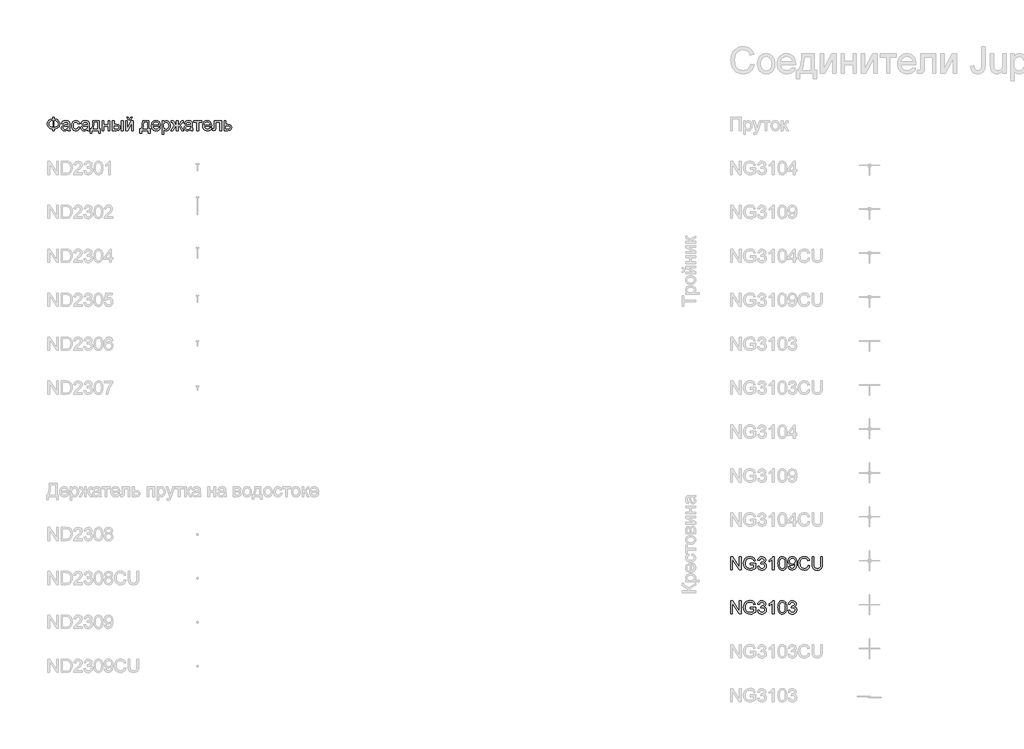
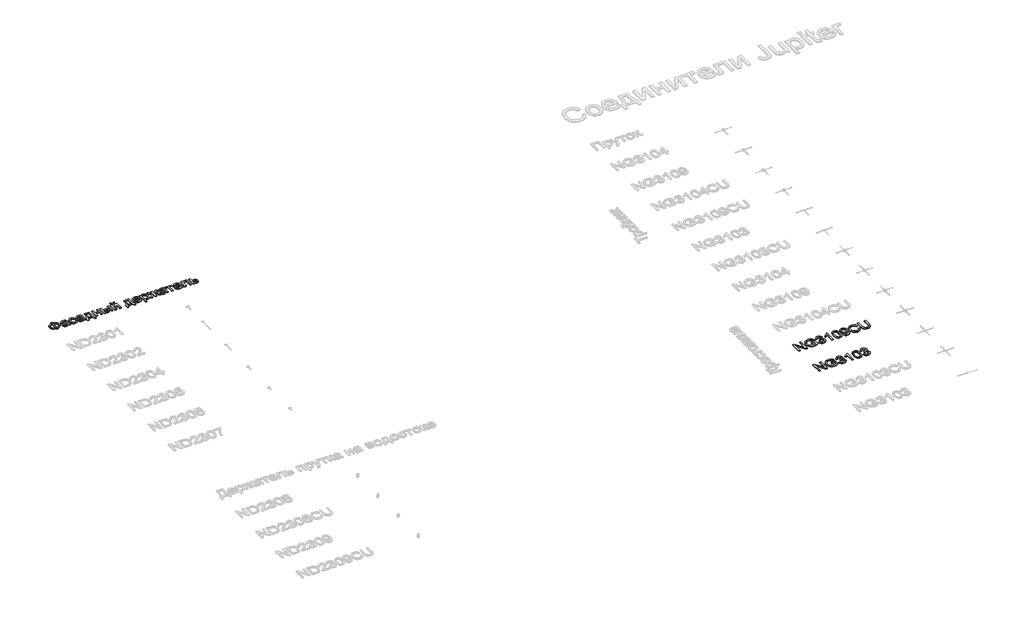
# One storey, part 117 of 124: 3 proxies.
"""IFC4 building model written with IfcOpenShell, lengths in millimetres."""

import ifcopenshell
import ifcopenshell.guid

model = None  # the IFC model being written
_history = None  # IfcOwnerHistory: only IFC2X3 demands one
_inside = {}  # id of a spatial element -> (the spatial element, [elements in it])
_under = {}  # id of a project, library or spatial element -> (it, [spatial elements below it])
_declared = {}  # id of a project -> (the project, [libraries it declares])
_typed = {}  # id of a type object -> (the type object, [elements of that type])
_made_of = {}  # id of a material, layer set ... -> (it, [elements and type objects made of it])


def new_model(schema):
    """Start an empty IFC model of exactly this schema.

    Asked for "IFC4X3", IfcOpenShell would pick the latest addendum, in which some entities
    have other attributes; the version numbers below select the first issue.
    IFC2X3 requires an IfcOwnerHistory on every rooted entity: one is made here for all.
    """
    global model, _history
    if schema == "IFC4X3":
        model = ifcopenshell.file(schema_version=(4, 3, 0, 0))
    else:
        model = ifcopenshell.file(schema=schema)
    _inside.clear()
    _under.clear()
    _declared.clear()
    _typed.clear()
    _made_of.clear()
    _history = None
    if model.schema == "IFC2X3":
        org = make("IfcOrganization", Name="unknown")
        user = make(
            "IfcPersonAndOrganization",
            ThePerson=make("IfcPerson", FamilyName="unknown"),
            TheOrganization=org,
        )
        app = make(
            "IfcApplication",
            ApplicationDeveloper=org,
            Version="unknown",
            ApplicationFullName="unknown",
            ApplicationIdentifier="unknown",
        )
        _history = make(
            "IfcOwnerHistory",
            OwningUser=user,
            OwningApplication=app,
            ChangeAction="ADDED",
            CreationDate=0,
        )
    return model


def make(cls, **values):
    """One entity of the class cls with the attributes given. An attribute that is None is left unset."""
    return model.create_entity(
        cls, **{name: value for name, value in values.items() if value is not None}
    )


def rooted(cls, **values):
    """An entity with a GlobalId (a new one), such as an element, a storey or a relation."""
    return make(cls, GlobalId=ifcopenshell.guid.new(), OwnerHistory=_history, **values)


def si_unit(unit_type, name, prefix=None):
    """IfcSIUnit, for example si_unit("LENGTHUNIT", "METRE", prefix="MILLI")."""
    return make("IfcSIUnit", UnitType=unit_type, Prefix=prefix, Name=name)


def assignment(units):
    """IfcUnitAssignment: the units of a project."""
    return None if units is None else make("IfcUnitAssignment", Units=units)


def point(xyz):
    """IfcCartesianPoint."""
    return None if xyz is None else make("IfcCartesianPoint", Coordinates=xyz)


def direction(xyz):
    """IfcDirection."""
    return None if xyz is None else make("IfcDirection", DirectionRatios=xyz)


def frame(location, z_axis=None, x_axis=None):
    """IfcAxis2Placement3D, a coordinate frame: its origin and axes. An axis left out is left unset."""
    return make(
        "IfcAxis2Placement3D",
        Location=point(location),
        Axis=direction(z_axis),
        RefDirection=direction(x_axis),
    )


def origin():
    """The frame at (0, 0, 0) with its axes left unset."""
    return frame((0.0, 0.0, 0.0))


def origin_with_axes():
    """The frame at (0, 0, 0) with the z axis (0, 0, 1) and the x axis (1, 0, 0) written out."""
    return frame((0.0, 0.0, 0.0), z_axis=(0.0, 0.0, 1.0), x_axis=(1.0, 0.0, 0.0))


def place(relative_to, where):
    """IfcLocalPlacement: puts the frame where relative to a parent placement (None: the world)."""
    return make(
        "IfcLocalPlacement", PlacementRelTo=relative_to, RelativePlacement=where
    )


def context(
    kind, dimensions, precision=None, world=None, true_north=None, identifier=None
):
    """IfcGeometricRepresentationContext, for example the 3D "Model" context."""
    return make(
        "IfcGeometricRepresentationContext",
        ContextIdentifier=identifier,
        ContextType=kind,
        CoordinateSpaceDimension=dimensions,
        Precision=precision,
        WorldCoordinateSystem=world,
        TrueNorth=true_north,
    )


def project(units=None, contexts=None):
    """IfcProject with its units and contexts."""
    return rooted(
        "IfcProject",
        Name="project",
        RepresentationContexts=contexts,
        UnitsInContext=assignment(units),
    )


def spatial(cls, under=None, at=None, **own):
    """A site, building, storey or space (cls), placed at a placement, below another one or the project."""
    s = rooted(cls, ObjectPlacement=at, **own)
    if under is not None:
        _under.setdefault(under.id(), (under, []))[1].append(s)
    return s


def polyline(points):
    """IfcPolyline through the points."""
    return make("IfcPolyline", Points=[point(p) for p in points])


def outline(outer, holes=None, kind="AREA"):
    """IfcArbitraryClosedProfileDef: a profile drawn as a closed curve; with holes, ...WithVoids."""
    if holes is None:
        return make("IfcArbitraryClosedProfileDef", ProfileType=kind, OuterCurve=outer)
    return make(
        "IfcArbitraryProfileDefWithVoids",
        ProfileType=kind,
        OuterCurve=outer,
        InnerCurves=holes,
    )


def extrude(swept, where, along, depth):
    """IfcExtrudedAreaSolid: the profile swept, set in the frame where, extruded along a direction by depth."""
    return make(
        "IfcExtrudedAreaSolid",
        SweptArea=swept,
        Position=where,
        ExtrudedDirection=direction(along),
        Depth=depth,
    )


def shape(context_of_items, identifier, shape_type, items):
    """IfcShapeRepresentation: the items that make up one representation, for example the "Body"."""
    return make(
        "IfcShapeRepresentation",
        ContextOfItems=context_of_items,
        RepresentationIdentifier=identifier,
        RepresentationType=shape_type,
        Items=items,
    )


def made_of(thing, what):
    """Note that an element or type object is made of a material, layer set ...; save() writes the relation."""
    if what is not None:
        _made_of.setdefault(what.id(), (what, []))[1].append(thing)
    return thing


def element(
    cls,
    number,
    at=None,
    inside=None,
    cuts=None,
    type_object=None,
    material=None,
    context=None,
    identifier="Body",
    shape_type=None,
    held_by="IfcProductDefinitionShape",
    body=None,
    shapes=None,
    **own,
):
    """One element of the class cls, such as IfcWall. Its Tag is "e" and its number.

    at: its placement. inside: the storey or other place that contains it. cuts: it is an
    opening in that element (IfcRelVoidsElement). A single representation is given by context,
    identifier, shape_type and body (its items); several are given by shapes. held_by: the class
    of the entity that holds the representations. save() writes the other relations.
    """
    e = rooted(cls, Tag="e%d" % number, ObjectPlacement=at, **own)
    if body is not None:
        shapes = [shape(context, identifier, shape_type, body)]
    if shapes is not None:
        e.Representation = make(held_by, Representations=shapes)
    if inside is not None:
        _inside.setdefault(inside.id(), (inside, []))[1].append(e)
    if cuts is not None:
        rooted(
            "IfcRelVoidsElement", RelatingBuildingElement=cuts, RelatedOpeningElement=e
        )
    if type_object is not None:
        _typed.setdefault(type_object.id(), (type_object, []))[1].append(e)
    return made_of(e, material)


def aggregate(whole, parts):
    """IfcRelAggregates: a whole, such as a stair, and the parts it consists of."""
    return rooted("IfcRelAggregates", RelatingObject=whole, RelatedObjects=parts)


def save(model, path):
    """Write the relations noted so far, then the file.

    IfcRelAggregates (storeys below a building ...), IfcRelContainedInSpatialStructure (elements
    in a storey), IfcRelDefinesByType, IfcRelAssociatesMaterial and IfcRelDeclares: one each for
    every whole, place, type object, material and project.
    """
    for whole, parts in _under.values():
        aggregate(whole, parts)
    for where, things in _inside.values():
        rooted(
            "IfcRelContainedInSpatialStructure",
            RelatedElements=things,
            RelatingStructure=where,
        )
    for kind, things in _typed.values():
        rooted("IfcRelDefinesByType", RelatedObjects=things, RelatingType=kind)
    for what, things in _made_of.values():
        rooted("IfcRelAssociatesMaterial", RelatedObjects=things, RelatingMaterial=what)
    for by, libraries in _declared.values():
        rooted("IfcRelDeclares", RelatingContext=by, RelatedDefinitions=libraries)
    model.write(path)


model = new_model("IFC4")

# Units and contexts
model_context = context("Model", 3, world=origin())
ifc_project = project(units=[si_unit("LENGTHUNIT", "METRE", prefix="MILLI")], contexts=[model_context])

# Site, building, storey
site = spatial("IfcSite", under=ifc_project)
building = spatial("IfcBuilding", under=site)
storey = spatial("IfcBuildingStorey", under=building, Name="Этаж 01", Elevation=0.0)

# Proxies
placement = place(None, origin())
element("IfcBuildingElementProxy", 1, Name="300", ObjectType="300", at=placement, inside=storey, context=model_context, shape_type="SweptSolid", body=[
    extrude(outline(polyline([(49699.8220677, -14519.5141033), (49699.8220677, -14218.1451728), (49740.1419344, -14218.1451728), (49897.5954283, -14456.9005877), (49897.5954283, -14218.1451728), (49935.2665446, -14218.1451728), (49935.2665446, -14519.5141033), (49894.9466779, -14519.5141033), (49737.493184, -14280.685112), (49737.493184, -14519.5141033), (49699.8220677, -14519.5141033)])), origin_with_axes(), (0.0, 0.0, 1.0), 20.0),
    extrude(outline(polyline([(50142.4576843, -14401.7918648), (50142.4576843, -14364.1207485), (50264.8888123, -14364.1207485), (50264.8888123, -14476.7662154), (50235.1363559, -14497.4595776), (50204.4458005, -14512.3036162), (50172.8907223, -14521.2431486), (50140.5446979, -14524.2229928), (50098.2842537, -14519.4865121), (50060.0889056, -14505.27707), (50028.3590835, -14482.0913073), (50005.4952175, -14450.4258646), (49991.6720515, -14412.4420486), (49987.0643295, -14370.301166), (49991.6536574, -14327.8567808), (50005.4216411, -14288.3738457), (50027.7980634, -14255.2552691), (50058.2127074, -14231.9039594), (50095.2584243, -14218.0532023), (50137.5280656, -14213.4362833), (50168.5589118, -14216.1126248), (50196.4627612, -14224.1416493), (50219.9612236, -14236.9439428), (50237.7759092, -14253.9400909), (50250.9552817, -14275.9486313), (50260.5478047, -14303.7881013), (50225.8197444, -14313.5737624), (50218.0666313, -14293.7173317), (50208.6396552, -14278.7353374), (50196.1684556, -14267.4413602), (50179.282672, -14258.6489805), (50159.1503298, -14252.9927948), (50136.9394544, -14251.1073996), (50110.9393944, -14253.1399476), (50088.7101248, -14259.2375917), (50070.3344191, -14268.6369766), (50055.8950508, -14280.5747474), (50036.5076697, -14309.6006368), (50027.6785018, -14338.037915), (50024.7354458, -14368.7560616), (50028.27631, -14404.780906), (50038.8989026, -14434.4229978), (50056.2813269, -14457.4708048), (50080.1016861, -14473.7127949), (50107.9779443, -14483.3421061), (50137.5280656, -14486.5518765), (50163.6200961, -14484.1330524), (50189.0683331, -14476.87658), (50211.1688439, -14466.8793868), (50227.217696, -14456.2384001), (50227.217696, -14401.7918648), (50142.4576843, -14401.7918648)])), origin_with_axes(), (0.0, 0.0, 1.0), 20.0),
    extrude(outline(polyline([(50311.9777077, -14439.4629811), (50349.648824, -14434.7540916), (50358.0825187, -14458.427298), (50370.4341567, -14474.4117707), (50387.3107432, -14483.51685), (50409.3192836, -14486.5518765), (50435.1445997, -14482.3764158), (50455.0838038, -14469.8500339), (50467.8309149, -14451.1616286), (50472.079952, -14428.5000977), (50467.8677031, -14406.988198), (50455.2309566, -14389.5413944), (50436.1010928, -14377.9807027), (50412.4094924, -14374.1271388), (50385.9955651, -14378.2474171), (50390.1894198, -14340.5763008), (50396.2226846, -14341.0177592), (50418.792245, -14338.3138265), (50438.9705724, -14330.2020285), (50453.2076056, -14316.4800301), (50457.9532834, -14296.9454962), (50454.5135867, -14280.6759149), (50444.1944967, -14267.4781484), (50428.4491473, -14258.7317539), (50408.7306724, -14255.8162891), (50388.9754093, -14258.7593451), (50372.8253897, -14267.588513), (50361.0347717, -14282.3037928), (50354.3577135, -14302.9051845), (50316.6865972, -14298.196295), (50327.7782394, -14264.3695455), (50347.5151084, -14239.1144465), (50374.5176468, -14223.3874912), (50407.4062972, -14218.1451728), (50431.0887007, -14220.7295438), (50452.8397236, -14228.4826569), (50471.1786411, -14240.7147332), (50484.624728, -14256.7359941), (50492.8744817, -14275.1944732), (50495.6243997, -14294.7382042), (50493.0124375, -14312.948363), (50485.176551, -14329.4662646), (50472.2271048, -14343.5377509), (50454.2744634, -14354.4086638), (50477.8556993, -14363.9368075), (50495.3300941, -14380.1604035), (50506.1458247, -14402.196535), (50509.7510683, -14429.1622852), (50507.9484465, -14448.2737549), (50502.5405812, -14465.8769084), (50493.5274723, -14481.9717457), (50480.9091199, -14496.5582668), (50465.536251, -14508.6615844), (50448.2595928, -14517.3068113), (50429.0791453, -14522.4939474), (50407.9949084, -14524.2229928), (50388.9386211, -14522.7468663), (50371.5745909, -14518.3184868), (50355.9028179, -14510.9378542), (50341.9233021, -14500.6049687), (50330.201662, -14487.9268354), (50321.3035162, -14473.5104598), (50315.2288648, -14457.3558417), (50311.9777077, -14439.4629811)])), origin_with_axes(), (0.0, 0.0, 1.0), 20.0),
    extrude(outline(polyline([(50683.9799812, -14519.5141033), (50646.3088649, -14519.5141033), (50646.3088649, -14284.6582375), (50610.6243114, -14310.0788834), (50570.9666323, -14329.0983826), (50570.9666323, -14293.4874054), (50600.5535417, -14277.3925681), (50626.1857197, -14258.2443103), (50646.3916383, -14237.8820419), (50659.6997695, -14218.1451728), (50683.9799812, -14218.1451728), (50683.9799812, -14519.5141033)])), origin_with_axes(), (0.0, 0.0, 1.0), 20.0),
    extrude(outline(polyline([(50773.4488824, -14371.2576592), (50776.2171944, -14323.0191326), (50784.5221305, -14284.5478729), (50798.2809171, -14255.2552691), (50817.4107808, -14234.5527098), (50842.0496775, -14222.2470571), (50872.3355627, -14218.1451728), (50895.5489166, -14220.573194), (50916.3342493, -14227.8572575), (50933.7166736, -14239.7122548), (50946.7213021, -14255.8530773), (50956.5437514, -14276.1417694), (50964.3796379, -14300.4403751), (50969.5115917, -14331.2964775), (50971.222243, -14371.2576592), (50968.4815222, -14419.2202743), (50960.2593596, -14457.5995635), (50946.5833464, -14486.9197585), (50927.4810738, -14507.7050912), (50902.7869949, -14520.0935174), (50872.3355627, -14524.2229928), (50851.5870182, -14522.4295681), (50833.1929184, -14517.0492939), (50817.1532634, -14508.0821703), (50803.4680532, -14495.5281972), (50790.334666, -14472.8344766), (50780.9536751, -14444.5581467), (50775.3250806, -14410.6992076), (50773.4488824, -14371.2576592)]), holes=[polyline([(50811.1199987, -14371.1840828), (50815.5345827, -14430.4406752), (50821.0528126, -14450.7086739), (50828.7783345, -14464.7364742), (50848.4968094, -14481.0980259), (50872.3355627, -14486.5518765), (50896.174316, -14481.0796318), (50915.892791, -14464.6628978), (50923.6183128, -14450.6121048), (50929.1365428, -14430.3487047), (50933.5511267, -14371.1840828), (50929.2836956, -14313.2610627), (50923.9494066, -14293.0597426), (50916.4814021, -14278.6985492), (50896.7997154, -14261.5368541), (50871.8941043, -14255.8162891), (50848.3128684, -14260.8562725), (50829.3669457, -14275.9762225), (50821.3839064, -14291.6112072), (50815.6817355, -14312.6908456), (50811.1199987, -14371.1840828)])]), origin_with_axes(), (0.0, 0.0, 1.0), 20.0),
    extrude(outline(polyline([(51008.8933593, -14444.1718706), (51046.5644756, -14439.4629811), (51053.0024106, -14460.8461221), (51063.4870474, -14475.405052), (51077.7608688, -14483.7651704), (51095.5663574, -14486.5518765), (51111.541633, -14484.7584518), (51126.0637748, -14479.3781776), (51138.1303042, -14470.9996651), (51146.7387429, -14460.2115256), (51159.0627898, -14427.4700281), (51164.5074433, -14383.765647), (51164.2867141, -14376.4080071), (51151.2361003, -14392.3372975), (51134.1571787, -14404.95565), (51114.2823539, -14413.1778126), (51092.8440306, -14415.9185334), (51074.9488708, -14414.2446703), (51058.4930493, -14409.2230811), (51043.4765661, -14400.8537657), (51029.8994213, -14389.1367242), (51018.64913, -14374.6835603), (51010.6132077, -14358.1058779), (51005.7916543, -14339.4036769), (51004.1844698, -14318.5769575), (51005.8698292, -14297.0558608), (51010.9259074, -14277.742056), (51019.3527043, -14260.6355433), (51031.15022, -14245.7363225), (51045.4861215, -14233.6651945), (51061.5280758, -14225.0429602), (51079.2760828, -14219.8696197), (51098.7301426, -14218.1451728), (51126.8271299, -14222.0815102), (51152.4041256, -14233.8905222), (51173.7964637, -14252.9835978), (51189.339478, -14278.7721256), (51198.8032423, -14314.4198909), (51201.9578304, -14363.0906789), (51198.8124393, -14414.6953258), (51189.3762662, -14454.5829311), (51173.7320843, -14484.5561167), (51151.9626673, -14506.4175042), (51125.0061141, -14519.7716207), (51093.8005238, -14524.2229928), (51061.5924551, -14518.9714773), (51035.8958978, -14503.2169309), (51017.9248623, -14477.9526349), (51008.8933593, -14444.1718706)]), holes=[polyline([(51164.2867141, -14317.6940407), (51160.221618, -14292.1630302), (51148.0263299, -14272.5181317), (51129.0988013, -14259.9917498), (51104.8369837, -14255.8162891), (51079.6738552, -14260.3136465), (51059.5139219, -14273.8057187), (51046.27017, -14294.4530957), (51041.8555861, -14320.4163675), (51046.0310467, -14343.6941007), (51058.5574287, -14362.1709739), (51078.2207213, -14374.2283063), (51103.8069141, -14378.2474171), (51127.8755936, -14374.2283063), (51147.2537777, -14362.1709739), (51160.02848, -14343.013519), (51164.2867141, -14317.6940407)])]), origin_with_axes(), (0.0, 0.0, 1.0), 20.0),
    extrude(outline(polyline([(51460.946755, -14412.3868663), (51498.6178713, -14422.0989509), (51491.1636624, -14445.5261362), (51481.235447, -14465.99647), (51468.8332253, -14483.5099522), (51453.9569971, -14498.0665829), (51436.9424548, -14509.5100123), (51418.1252908, -14517.6838903), (51397.5055049, -14522.5882172), (51375.0830973, -14524.2229928), (51331.3879134, -14519.27498), (51296.6874442, -14504.4309415), (51270.0895759, -14480.2059121), (51250.7021948, -14447.1149266), (51238.8655916, -14408.2114056), (51234.9200572, -14366.5487697), (51239.3806264, -14322.6052653), (51252.7623339, -14284.6582375), (51274.3662041, -14253.9124998), (51303.4932611, -14231.5728656), (51338.0373804, -14217.9704289), (51375.8924377, -14213.4362833), (51417.1963887, -14219.3040011), (51435.1651249, -14226.6386484), (51451.3450349, -14236.9071546), (51465.4694043, -14249.8382067), (51477.2715185, -14265.1604918), (51493.9089818, -14302.9787609), (51456.2378655, -14311.9550816), (51443.1780546, -14284.4834936), (51425.3357779, -14265.6387384), (51402.490306, -14254.7402343), (51374.4209097, -14251.1073996), (51342.0656883, -14255.1357074), (51315.4862141, -14267.220631), (51295.3170837, -14286.0929773), (51282.1928935, -14310.4835536), (51274.9916035, -14338.0563091), (51272.5911735, -14366.4751933), (51275.4330619, -14401.27683), (51283.9587271, -14431.3695772), (51298.4900659, -14455.6038036), (51319.3489751, -14472.8298781), (51344.3557537, -14483.1213769), (51371.330701, -14486.5518765), (51402.7754145, -14481.8797752), (51428.9778096, -14467.8634711), (51448.7606639, -14444.6501172), (51460.946755, -14412.3868663)])), origin_with_axes(), (0.0, 0.0, 1.0), 20.0),
    extrude(outline(polyline([(51748.1890168, -14218.1451728), (51785.8601331, -14218.1451728), (51785.8601331, -14392.0062037), (51783.3033533, -14432.7215435), (51775.6330137, -14464.0742866), (51761.30401, -14488.2625278), (51738.7712378, -14507.484362), (51707.9795148, -14520.0383351), (51668.8736587, -14524.2229928), (51630.6231282, -14520.580961), (51600.0429374, -14509.6548658), (51577.1238891, -14491.8217861), (51561.8567863, -14467.4588009), (51553.2759387, -14434.7816827), (51550.4156562, -14392.0062037), (51550.4156562, -14218.1451728), (51588.0867725, -14218.1451728), (51588.0867725, -14390.6818285), (51589.9445766, -14424.5361692), (51595.5179888, -14448.108208), (51605.6163496, -14464.4329715), (51621.0489993, -14476.5454862), (51641.1721444, -14484.0502789), (51665.3419915, -14486.5518765), (51703.6569013, -14481.6038637), (51717.9997006, -14475.4188476), (51729.1327295, -14466.7598252), (51737.4698552, -14454.5829311), (51743.424945, -14437.8443003), (51748.1890168, -14390.6818285), (51748.1890168, -14218.1451728)])), origin_with_axes(), (0.0, 0.0, 1.0), 20.0),
])
element("IfcBuildingElementProxy", 2, Name="300", ObjectType="300", at=placement, inside=storey, context=model_context, shape_type="SweptSolid", body=[
    extrude(outline(polyline([(49699.8220677, -15519.5141033), (49699.8220677, -15218.1451728), (49740.1419344, -15218.1451728), (49897.5954283, -15456.9005877), (49897.5954283, -15218.1451728), (49935.2665446, -15218.1451728), (49935.2665446, -15519.5141033), (49894.9466779, -15519.5141033), (49737.493184, -15280.685112), (49737.493184, -15519.5141033), (49699.8220677, -15519.5141033)])), origin_with_axes(), (0.0, 0.0, 1.0), 20.0),
    extrude(outline(polyline([(50142.4576843, -15401.7918648), (50142.4576843, -15364.1207485), (50264.8888123, -15364.1207485), (50264.8888123, -15476.7662154), (50235.1363559, -15497.4595776), (50204.4458005, -15512.3036162), (50172.8907223, -15521.2431486), (50140.5446979, -15524.2229928), (50098.2842537, -15519.4865121), (50060.0889056, -15505.27707), (50028.3590835, -15482.0913073), (50005.4952175, -15450.4258646), (49991.6720515, -15412.4420486), (49987.0643295, -15370.301166), (49991.6536574, -15327.8567808), (50005.4216411, -15288.3738457), (50027.7980634, -15255.2552691), (50058.2127074, -15231.9039594), (50095.2584243, -15218.0532023), (50137.5280656, -15213.4362833), (50168.5589118, -15216.1126248), (50196.4627612, -15224.1416493), (50219.9612236, -15236.9439428), (50237.7759092, -15253.9400909), (50250.9552817, -15275.9486313), (50260.5478047, -15303.7881013), (50225.8197444, -15313.5737624), (50218.0666313, -15293.7173317), (50208.6396552, -15278.7353374), (50196.1684556, -15267.4413602), (50179.282672, -15258.6489805), (50159.1503298, -15252.9927948), (50136.9394544, -15251.1073996), (50110.9393944, -15253.1399476), (50088.7101248, -15259.2375917), (50070.3344191, -15268.6369766), (50055.8950508, -15280.5747474), (50036.5076697, -15309.6006368), (50027.6785018, -15338.037915), (50024.7354458, -15368.7560616), (50028.27631, -15404.780906), (50038.8989026, -15434.4229978), (50056.2813269, -15457.4708048), (50080.1016861, -15473.7127949), (50107.9779443, -15483.3421061), (50137.5280656, -15486.5518765), (50163.6200961, -15484.1330524), (50189.0683331, -15476.87658), (50211.1688439, -15466.8793868), (50227.217696, -15456.2384001), (50227.217696, -15401.7918648), (50142.4576843, -15401.7918648)])), origin_with_axes(), (0.0, 0.0, 1.0), 20.0),
    extrude(outline(polyline([(50311.9777077, -15439.4629811), (50349.648824, -15434.7540916), (50358.0825187, -15458.427298), (50370.4341567, -15474.4117707), (50387.3107432, -15483.51685), (50409.3192836, -15486.5518765), (50435.1445997, -15482.3764158), (50455.0838038, -15469.8500339), (50467.8309149, -15451.1616286), (50472.079952, -15428.5000977), (50467.8677031, -15406.988198), (50455.2309566, -15389.5413944), (50436.1010928, -15377.9807027), (50412.4094924, -15374.1271388), (50385.9955651, -15378.2474171), (50390.1894198, -15340.5763008), (50396.2226846, -15341.0177592), (50418.792245, -15338.3138265), (50438.9705724, -15330.2020285), (50453.2076056, -15316.4800301), (50457.9532834, -15296.9454962), (50454.5135867, -15280.6759149), (50444.1944967, -15267.4781484), (50428.4491473, -15258.7317539), (50408.7306724, -15255.8162891), (50388.9754093, -15258.7593451), (50372.8253897, -15267.588513), (50361.0347717, -15282.3037928), (50354.3577135, -15302.9051845), (50316.6865972, -15298.196295), (50327.7782394, -15264.3695455), (50347.5151084, -15239.1144465), (50374.5176468, -15223.3874912), (50407.4062972, -15218.1451728), (50431.0887007, -15220.7295438), (50452.8397236, -15228.4826569), (50471.1786411, -15240.7147332), (50484.624728, -15256.7359941), (50492.8744817, -15275.1944732), (50495.6243997, -15294.7382042), (50493.0124375, -15312.948363), (50485.176551, -15329.4662646), (50472.2271048, -15343.5377509), (50454.2744634, -15354.4086638), (50477.8556993, -15363.9368075), (50495.3300941, -15380.1604035), (50506.1458247, -15402.196535), (50509.7510683, -15429.1622852), (50507.9484465, -15448.2737549), (50502.5405812, -15465.8769084), (50493.5274723, -15481.9717457), (50480.9091199, -15496.5582668), (50465.536251, -15508.6615844), (50448.2595928, -15517.3068113), (50429.0791453, -15522.4939474), (50407.9949084, -15524.2229928), (50388.9386211, -15522.7468663), (50371.5745909, -15518.3184868), (50355.9028179, -15510.9378542), (50341.9233021, -15500.6049687), (50330.201662, -15487.9268354), (50321.3035162, -15473.5104598), (50315.2288648, -15457.3558417), (50311.9777077, -15439.4629811)])), origin_with_axes(), (0.0, 0.0, 1.0), 20.0),
    extrude(outline(polyline([(50683.9799812, -15519.5141033), (50646.3088649, -15519.5141033), (50646.3088649, -15284.6582375), (50610.6243114, -15310.0788834), (50570.9666323, -15329.0983826), (50570.9666323, -15293.4874054), (50600.5535417, -15277.3925681), (50626.1857197, -15258.2443103), (50646.3916383, -15237.8820419), (50659.6997695, -15218.1451728), (50683.9799812, -15218.1451728), (50683.9799812, -15519.5141033)])), origin_with_axes(), (0.0, 0.0, 1.0), 20.0),
    extrude(outline(polyline([(50773.4488824, -15371.2576592), (50776.2171944, -15323.0191326), (50784.5221305, -15284.5478729), (50798.2809171, -15255.2552691), (50817.4107808, -15234.5527098), (50842.0496775, -15222.2470571), (50872.3355627, -15218.1451728), (50895.5489166, -15220.573194), (50916.3342493, -15227.8572575), (50933.7166736, -15239.7122548), (50946.7213021, -15255.8530773), (50956.5437514, -15276.1417694), (50964.3796379, -15300.4403751), (50969.5115917, -15331.2964775), (50971.222243, -15371.2576592), (50968.4815222, -15419.2202743), (50960.2593596, -15457.5995635), (50946.5833464, -15486.9197585), (50927.4810738, -15507.7050912), (50902.7869949, -15520.0935174), (50872.3355627, -15524.2229928), (50851.5870182, -15522.4295681), (50833.1929184, -15517.0492939), (50817.1532634, -15508.0821703), (50803.4680532, -15495.5281972), (50790.334666, -15472.8344766), (50780.9536751, -15444.5581467), (50775.3250806, -15410.6992076), (50773.4488824, -15371.2576592)]), holes=[polyline([(50811.1199987, -15371.1840828), (50815.5345827, -15430.4406752), (50821.0528126, -15450.7086739), (50828.7783345, -15464.7364742), (50848.4968094, -15481.0980259), (50872.3355627, -15486.5518765), (50896.174316, -15481.0796318), (50915.892791, -15464.6628978), (50923.6183128, -15450.6121048), (50929.1365428, -15430.3487047), (50933.5511267, -15371.1840828), (50929.2836956, -15313.2610627), (50923.9494066, -15293.0597426), (50916.4814021, -15278.6985492), (50896.7997154, -15261.5368541), (50871.8941043, -15255.8162891), (50848.3128684, -15260.8562725), (50829.3669457, -15275.9762225), (50821.3839064, -15291.6112072), (50815.6817355, -15312.6908456), (50811.1199987, -15371.1840828)])]), origin_with_axes(), (0.0, 0.0, 1.0), 20.0),
    extrude(outline(polyline([(51004.1844698, -15439.4629811), (51041.8555861, -15434.7540916), (51050.2892808, -15458.427298), (51062.6409188, -15474.4117707), (51079.5175054, -15483.51685), (51101.5260457, -15486.5518765), (51127.3513618, -15482.3764158), (51147.2905659, -15469.8500339), (51160.037677, -15451.1616286), (51164.2867141, -15428.5000977), (51160.0744652, -15406.988198), (51147.4377187, -15389.5413944), (51128.307855, -15377.9807027), (51104.6162545, -15374.1271388), (51078.2023272, -15378.2474171), (51082.396182, -15340.5763008), (51088.4294467, -15341.0177592), (51110.9990071, -15338.3138265), (51131.1773345, -15330.2020285), (51145.4143677, -15316.4800301), (51150.1600455, -15296.9454962), (51146.7203488, -15280.6759149), (51136.4012589, -15267.4781484), (51120.6559095, -15258.7317539), (51100.9374345, -15255.8162891), (51081.1821714, -15258.7593451), (51065.0321518, -15267.588513), (51053.2415338, -15282.3037928), (51046.5644756, -15302.9051845), (51008.8933593, -15298.196295), (51019.9850015, -15264.3695455), (51039.7218705, -15239.1144465), (51066.724409, -15223.3874912), (51099.6130593, -15218.1451728), (51123.2954628, -15220.7295438), (51145.0464857, -15228.4826569), (51163.3854032, -15240.7147332), (51176.8314901, -15256.7359941), (51185.0812439, -15275.1944732), (51187.8311618, -15294.7382042), (51185.2191996, -15312.948363), (51177.3833131, -15329.4662646), (51164.4338669, -15343.5377509), (51146.4812255, -15354.4086638), (51170.0624614, -15363.9368075), (51187.5368562, -15380.1604035), (51198.3525868, -15402.196535), (51201.9578304, -15429.1622852), (51200.1552086, -15448.2737549), (51194.7473433, -15465.8769084), (51185.7342344, -15481.9717457), (51173.115882, -15496.5582668), (51157.7430131, -15508.6615844), (51140.4663549, -15517.3068113), (51121.2859074, -15522.4939474), (51100.2016705, -15524.2229928), (51081.1453832, -15522.7468663), (51063.781353, -15518.3184868), (51048.10958, -15510.9378542), (51034.1300642, -15500.6049687), (51022.4084241, -15487.9268354), (51013.5102784, -15473.5104598), (51007.4356269, -15457.3558417), (51004.1844698, -15439.4629811)])), origin_with_axes(), (0.0, 0.0, 1.0), 20.0),
])
element("IfcBuildingElementProxy", 3, Name="300", ObjectType="300", at=placement, inside=storey, context=model_context, shape_type="SweptSolid", body=[
    extrude(outline(polyline([(34269.7942312, -4255.8162891), (34269.7942312, -4218.1451728), (34307.4653475, -4218.1451728), (34307.4653475, -4255.8162891), (34334.336828, -4259.1364241), (34358.2238658, -4266.0066204), (34379.1264609, -4276.4268779), (34397.0446133, -4290.3971967), (34411.417303, -4307.1036378), (34421.68351, -4325.7322623), (34427.8432341, -4346.2830703), (34429.8964755, -4368.7560616), (34427.9076135, -4390.7783976), (34421.9410274, -4411.0808852), (34411.9967172, -4429.6635245), (34398.0746829, -4446.5263154), (34380.4784272, -4460.7357575), (34359.5114528, -4471.3583501), (34335.1737595, -4478.3940932), (34307.4653475, -4481.842987), (34307.4653475, -4519.5141033), (34269.7942312, -4519.5141033), (34269.7942312, -4481.842987), (34244.6265042, -4479.0355875), (34221.6568721, -4472.6735282), (34200.885335, -4462.7568092), (34182.3118928, -4449.2854304), (34167.0217973, -4432.8158133), (34156.1003006, -4413.9043795), (34149.5474026, -4392.5511289), (34147.3631032, -4368.7560616), (34149.5405048, -4344.852929), (34156.0727095, -4323.469788), (34166.9597172, -4304.6066387), (34182.2015282, -4288.2634811), (34200.7404815, -4274.9231602), (34221.5189164, -4265.0685213), (34244.536833, -4258.6995643), (34269.7942312, -4255.8162891)]), holes=[polyline([(34307.4653475, -4293.4874054), (34307.4653475, -4444.1718706), (34342.7084427, -4437.9454679), (34369.5638283, -4422.7979267), (34379.4782481, -4412.0718673), (34386.5599765, -4399.5017994), (34392.2253592, -4368.829638), (34386.661144, -4338.5713439), (34379.7058751, -4326.0771517), (34369.9684985, -4315.3395959), (34343.2142804, -4300.0173108), (34307.4653475, -4293.4874054)]), polyline([(34269.7942312, -4293.4874054), (34235.5168263, -4299.5206701), (34208.4683026, -4314.5302555), (34198.2158913, -4325.2356216), (34190.8927403, -4337.853974), (34186.4988497, -4352.3853129), (34185.0342195, -4368.829638), (34186.4804556, -4385.1245112), (34190.8191639, -4399.5753758), (34198.0503444, -4412.1822319), (34208.173997, -4422.9450795), (34235.1489443, -4438.0926207), (34269.7942312, -4444.1718706), (34269.7942312, -4293.4874054)])]), origin_with_axes(), (0.0, 0.0, 1.0), 20.0),
    extrude(outline(polyline([(34618.252057, -4491.260766), (34600.2534304, -4506.6934157), (34581.7213749, -4516.7917765), (34562.2328262, -4522.3651887), (34541.36472, -4524.2229928), (34509.8832183, -4519.7532266), (34486.6606674, -4506.3439278), (34472.3408607, -4485.9816594), (34467.5675918, -4460.652984), (34469.3702136, -4445.0363933), (34474.7780789, -4430.8545424), (34483.1198032, -4418.7144366), (34493.7240017, -4409.2230811), (34520.1011407, -4396.8622461), (34552.6954855, -4391.1968633), (34591.2127304, -4385.237175), (34618.0313278, -4378.2474171), (34618.252057, -4369.8597076), (34615.658489, -4353.0475004), (34607.8777848, -4342.0478288), (34590.4769664, -4333.8808485), (34566.2335429, -4331.1585217), (34543.7927412, -4332.9703406), (34528.1209682, -4338.405797), (34517.4339963, -4348.4581726), (34509.9475977, -4364.1207485), (34472.2764814, -4359.411859), (34478.8155838, -4338.8104672), (34488.5736537, -4322.6236594), (34502.4611991, -4310.2444303), (34521.3887277, -4301.0657745), (34544.5377023, -4295.3819977), (34571.0895853, -4293.4874054), (34596.5562164, -4295.1612685), (34616.7437409, -4300.1828577), (34631.9648584, -4307.7336357), (34642.5322687, -4316.9950649), (34649.5404207, -4328.445392), (34654.0837634, -4342.5628636), (34655.9231733, -4375.5250903), (34655.9231733, -4422.3932565), (34657.8361597, -4487.8394635), (34665.3409524, -4519.5141033), (34627.6698361, -4519.5141033), (34618.252057, -4491.260766)]), holes=[polyline([(34618.252057, -4415.9185334), (34557.4779514, -4427.4700281), (34525.0675477, -4433.5768692), (34510.3890561, -4443.5096831), (34505.2387081, -4458.0042337), (34508.0438083, -4469.2062404), (34516.459109, -4478.3848962), (34530.300669, -4484.5101314), (34549.3845475, -4486.5518765), (34569.6180573, -4484.2985993), (34587.4971222, -4477.5387676), (34601.9916729, -4467.5783626), (34612.0716395, -4455.7233653), (34616.5414058, -4443.5096831), (34618.0313278, -4426.5871113), (34618.252057, -4415.9185334)])]), origin_with_axes(), (0.0, 0.0, 1.0), 20.0),
    extrude(outline(polyline([(34848.9876444, -4439.4629811), (34886.6587607, -4444.1718706), (34876.1557298, -4477.6767234), (34856.4188607, -4502.9962017), (34829.3059577, -4518.916295), (34796.6748247, -4524.2229928), (34775.5469019, -4522.3720865), (34756.6032784, -4516.8193676), (34739.8439542, -4507.5648362), (34725.2689294, -4494.6084922), (34713.4714137, -4478.1940574), (34705.0446168, -4458.5652537), (34699.9885386, -4435.7220811), (34698.3031792, -4409.6645395), (34701.1818558, -4376.1412927), (34709.8178856, -4347.0878121), (34724.3492245, -4323.6261379), (34744.913828, -4306.87831), (34769.5159364, -4296.8351316), (34796.1597899, -4293.4874054), (34827.9907795, -4298.0859304), (34853.4390166, -4311.8815052), (34871.6951606, -4334.1383659), (34881.9498712, -4364.1207485), (34844.2787549, -4368.829638), (34837.4453468, -4352.3945099), (34826.8043601, -4340.613089), (34812.9444059, -4333.5221635), (34796.4540955, -4331.1585217), (34772.1095045, -4335.812229), (34752.7865027, -4349.7733507), (34740.1773473, -4373.796045), (34735.9742955, -4408.6344699), (34740.0853768, -4443.9419444), (34752.4186207, -4468.0474121), (34771.3921346, -4481.9257604), (34795.4240259, -4486.5518765), (34814.9309687, -4483.6640028), (34830.9246385, -4475.0003818), (34842.5589066, -4460.3402843), (34848.9876444, -4439.4629811)])), origin_with_axes(), (0.0, 0.0, 1.0), 20.0),
    extrude(outline(polyline([(35060.8876736, -4491.260766), (35042.889047, -4506.6934157), (35024.3569915, -4516.7917765), (35004.8684428, -4522.3651887), (34984.0003366, -4524.2229928), (34952.5188349, -4519.7532266), (34929.296284, -4506.3439278), (34914.9764773, -4485.9816594), (34910.2032084, -4460.652984), (34912.0058302, -4445.0363933), (34917.4136955, -4430.8545424), (34925.7554198, -4418.7144366), (34936.3596183, -4409.2230811), (34962.7367573, -4396.8622461), (34995.3311021, -4391.1968633), (35033.848347, -4385.237175), (35060.6669444, -4378.2474171), (35060.8876736, -4369.8597076), (35058.2941056, -4353.0475004), (35050.5134014, -4342.0478288), (35033.112583, -4333.8808485), (35008.8691595, -4331.1585217), (34986.4283578, -4332.9703406), (34970.7565848, -4338.405797), (34960.0696129, -4348.4581726), (34952.5832143, -4364.1207485), (34914.912098, -4359.411859), (34921.4512004, -4338.8104672), (34931.2092703, -4322.6236594), (34945.0968157, -4310.2444303), (34964.0243443, -4301.0657745), (34987.1733189, -4295.3819977), (35013.7252019, -4293.4874054), (35039.191833, -4295.1612685), (35059.3793575, -4300.1828577), (35074.600475, -4307.7336357), (35085.1678853, -4316.9950649), (35092.1760373, -4328.445392), (35096.71938, -4342.5628636), (35098.5587899, -4375.5250903), (35098.5587899, -4422.3932565), (35100.4717763, -4487.8394635), (35107.976569, -4519.5141033), (35070.3054527, -4519.5141033), (35060.8876736, -4491.260766)]), holes=[polyline([(35060.8876736, -4415.9185334), (35000.113568, -4427.4700281), (34967.7031643, -4433.5768692), (34953.0246727, -4443.5096831), (34947.8743247, -4458.0042337), (34950.6794249, -4469.2062404), (34959.0947256, -4478.3848962), (34972.9362856, -4484.5101314), (34992.0201641, -4486.5518765), (35012.2536739, -4484.2985993), (35030.1327388, -4477.5387676), (35044.6272895, -4467.5783626), (35054.7072561, -4455.7233653), (35059.1770224, -4443.5096831), (35060.6669444, -4426.5871113), (35060.8876736, -4415.9185334)])]), origin_with_axes(), (0.0, 0.0, 1.0), 20.0),
    extrude(outline(polyline([(35183.3188016, -4298.196295), (35324.5854878, -4298.196295), (35324.5854878, -4481.842987), (35352.838825, -4481.842987), (35352.838825, -4580.7296673), (35315.1677087, -4580.7296673), (35315.1677087, -4519.5141033), (35159.7743539, -4519.5141033), (35159.7743539, -4580.7296673), (35122.1032376, -4580.7296673), (35122.1032376, -4481.842987), (35145.6476853, -4481.842987), (35162.7633952, -4450.9133082), (35174.7471511, -4409.9956333), (35181.5989533, -4359.0899622), (35183.3188016, -4298.196295)]), holes=[polyline([(35216.2810284, -4335.8674113), (35213.1908196, -4381.9906164), (35207.4518605, -4421.6942807), (35199.064151, -4454.9784043), (35188.0276912, -4481.842987), (35286.9143715, -4481.842987), (35286.9143715, -4335.8674113), (35216.2810284, -4335.8674113)])]), origin_with_axes(), (0.0, 0.0, 1.0), 20.0),
    extrude(outline(polyline([(35395.2188309, -4298.196295), (35432.8899472, -4298.196295), (35432.8899472, -4382.9563067), (35531.7766275, -4382.9563067), (35531.7766275, -4298.196295), (35569.4477438, -4298.196295), (35569.4477438, -4519.5141033), (35531.7766275, -4519.5141033), (35531.7766275, -4420.627423), (35432.8899472, -4420.627423), (35432.8899472, -4519.5141033), (35395.2188309, -4519.5141033), (35395.2188309, -4298.196295)])), origin_with_axes(), (0.0, 0.0, 1.0), 20.0),
    extrude(outline(polyline([(35833.1455579, -4298.196295), (35870.8166742, -4298.196295), (35870.8166742, -4519.5141033), (35833.1455579, -4519.5141033), (35833.1455579, -4298.196295)])), origin_with_axes(), (0.0, 0.0, 1.0), 20.0),
    extrude(outline(polyline([(35625.9544182, -4298.196295), (35663.6255345, -4298.196295), (35663.6255345, -4378.2474171), (35710.1993951, -4378.2474171), (35750.4548824, -4382.9655037), (35766.6715806, -4388.8631119), (35780.2809152, -4397.1197635), (35791.0483614, -4407.4503497), (35798.7393943, -4419.5697622), (35803.3540141, -4433.4780009), (35804.8922207, -4449.1750658), (35799.7326757, -4476.131619), (35784.2540408, -4498.8759233), (35772.3921457, -4507.9051271), (35757.4446404, -4514.3545583), (35718.292799, -4519.5141033), (35625.9544182, -4519.5141033), (35625.9544182, -4298.196295)]), holes=[polyline([(35663.6255345, -4481.842987), (35702.3267204, -4481.842987), (35732.3274971, -4479.8656212), (35752.2850954, -4473.9335241), (35763.4871021, -4463.8075721), (35767.2211044, -4449.2486422), (35764.4527924, -4436.9429894), (35756.1478563, -4426.0720765), (35738.388353, -4418.4569192), (35707.2563392, -4415.9185334), (35663.6255345, -4415.9185334), (35663.6255345, -4481.842987)])]), origin_with_axes(), (0.0, 0.0, 1.0), 20.0),
    extrude(outline(polyline([(35927.3233487, -4298.196295), (35964.994465, -4298.196295), (35964.994465, -4466.9805543), (36057.553575, -4298.196295), (36106.2611511, -4298.196295), (36106.2611511, -4519.5141033), (36068.5900348, -4519.5141033), (36068.5900348, -4351.7599135), (35976.619536, -4519.5141033), (35927.3233487, -4519.5141033), (35927.3233487, -4298.196295)])), origin_with_axes(), (0.0, 0.0, 1.0), 20.0),
    extrude(outline(polyline([(36049.7544767, -4218.1451728), (36078.0078139, -4218.1451728), (36071.9285639, -4242.2690346), (36059.7240787, -4260.0469321), (36041.9461813, -4271.0006185), (36019.1466947, -4274.6518473), (35994.4066305, -4271.0282096), (35975.2215845, -4260.1572967), (35962.1065913, -4242.4069904), (35955.5766859, -4218.1451728), (35983.8300231, -4218.1451728), (35987.8031487, -4230.5519931), (35994.4250246, -4239.3719639), (36003.7324391, -4244.6418735), (36015.7621803, -4246.39851), (36029.3370259, -4244.6970558), (36039.1594752, -4239.5926931), (36045.7813511, -4230.8279046), (36049.7544767, -4218.1451728)])), origin_with_axes(), (0.0, 0.0, 1.0), 20.0),
    extrude(outline(polyline([(36313.4522908, -4298.196295), (36454.718977, -4298.196295), (36454.718977, -4481.842987), (36482.9723142, -4481.842987), (36482.9723142, -4580.7296673), (36445.3011979, -4580.7296673), (36445.3011979, -4519.5141033), (36289.9078431, -4519.5141033), (36289.9078431, -4580.7296673), (36252.2367268, -4580.7296673), (36252.2367268, -4481.842987), (36275.7811745, -4481.842987), (36292.8968843, -4450.9133082), (36304.8806403, -4409.9956333), (36311.7324425, -4359.0899622), (36313.4522908, -4298.196295)]), holes=[polyline([(36346.4145176, -4335.8674113), (36343.3243088, -4381.9906164), (36337.5853497, -4421.6942807), (36329.1976402, -4454.9784043), (36318.1611804, -4481.842987), (36417.0478607, -4481.842987), (36417.0478607, -4335.8674113), (36346.4145176, -4335.8674113)])]), origin_with_axes(), (0.0, 0.0, 1.0), 20.0),
    extrude(outline(polyline([(36680.3042164, -4453.5896497), (36717.2395687, -4458.2985393), (36703.9314375, -4486.1288122), (36682.6954494, -4506.932539), (36654.0098508, -4519.9003794), (36618.3528884, -4524.2229928), (36594.9785861, -4522.3582909), (36574.1518667, -4516.7641853), (36555.8727301, -4507.440676), (36540.1411762, -4494.387763), (36527.4906341, -4477.9687297), (36518.4545326, -4458.5468596), (36513.0328717, -4436.1221527), (36511.2256514, -4410.6946091), (36513.0512658, -4384.404842), (36518.528109, -4361.2328748), (36527.656181, -4341.1787076), (36540.4354818, -4324.2423402), (36556.1256489, -4310.7870562), (36573.9863198, -4301.1761391), (36594.0174944, -4295.4095888), (36616.2191728, -4293.4874054), (36637.7057806, -4295.4049903), (36657.1368478, -4301.157745), (36674.5123742, -4310.7456695), (36689.8323601, -4324.1687638), (36702.3380487, -4341.068343), (36711.2706834, -4361.085722), (36716.6302642, -4384.220901), (36718.4167911, -4410.4738799), (36718.1960619, -4420.627423), (36548.8967677, -4420.627423), (36555.4174761, -4448.8255779), (36570.5650172, -4469.5557283), (36592.4264048, -4482.3028394), (36619.0886524, -4486.5518765), (36639.1382211, -4484.5837078), (36656.0240047, -4478.6792018), (36669.7460031, -4468.4704764), (36680.3042164, -4453.5896497)]), holes=[polyline([(36548.8967677, -4382.9563067), (36680.7456748, -4382.9563067), (36675.6505092, -4363.0538907), (36665.662513, -4348.8168575), (36643.6999579, -4335.5731057), (36616.07202, -4331.1585217), (36590.6789653, -4334.6809918), (36569.6821005, -4345.2484021), (36555.0863823, -4361.7203185), (36548.8967677, -4382.9563067)])]), origin_with_axes(), (0.0, 0.0, 1.0), 20.0),
    extrude(outline(polyline([(36756.0879074, -4604.2741149), (36756.0879074, -4298.196295), (36793.7590237, -4298.196295), (36793.7590237, -4335.1316473), (36806.0462824, -4316.9122915), (36819.805069, -4303.8984659), (36835.844724, -4296.0901705), (36854.9745877, -4293.4874054), (36880.4504159, -4297.1294372), (36902.7256707, -4308.0555324), (36920.8622531, -4325.6035036), (36933.9220639, -4349.1111631), (36941.8131327, -4376.8678596), (36944.4434889, -4407.1629419), (36941.4728418, -4439.3802077), (36932.5609005, -4468.1945649), (36917.9927735, -4492.1436828), (36898.0535694, -4509.7652304), (36874.8310184, -4520.6085522), (36850.412851, -4524.2229928), (36833.0948061, -4521.8041687), (36817.6345652, -4514.5476963), (36804.4000104, -4503.5940099), (36793.7590237, -4490.0835436), (36793.7590237, -4604.2741149), (36756.0879074, -4604.2741149)]), holes=[polyline([(36793.7590237, -4410.6210327), (36797.8333168, -4444.3925998), (36810.0561961, -4468.0106239), (36828.0916109, -4481.9165634), (36849.6035106, -4486.5518765), (36871.4648982, -4481.7510165), (36889.9601655, -4467.3484363), (36902.5693208, -4442.8658896), (36906.7723726, -4407.8251295), (36902.6704884, -4374.2375034), (36890.3648357, -4350.2883855), (36872.357012, -4335.9409877), (36851.148615, -4331.1585217), (36829.8574445, -4336.2444903), (36811.1598421, -4351.5023961), (36798.1092283, -4376.4539924), (36793.7590237, -4410.6210327)])]), origin_with_axes(), (0.0, 0.0, 1.0), 20.0),
    extrude(outline(polyline([(37123.3812914, -4298.196295), (37123.3812914, -4392.3740857), (37136.6710285, -4390.4335082), (37145.3438465, -4384.6117756), (37166.1291792, -4344.3286972), (37179.0970196, -4319.220751), (37190.9244257, -4305.7010877), (37205.2902176, -4300.0724931), (37226.1675208, -4298.196295), (37241.1035299, -4298.196295), (37241.1035299, -4336.0881405), (37230.7292576, -4335.8674113), (37211.3050882, -4339.7669604), (37197.8406072, -4364.1943249), (37182.2056224, -4390.9761341), (37159.8751853, -4404.587768), (37172.26821, -4409.8898672), (37184.5048849, -4419.2478655), (37208.5091851, -4450.131559), (37250.5213089, -4519.5141033), (37207.3319627, -4519.5141033), (37165.9820264, -4451.0880522), (37154.6788521, -4433.1262137), (37144.9023881, -4422.6507739), (37135.0155595, -4417.6015935), (37123.3812914, -4415.9185334), (37123.3812914, -4519.5141033), (37085.7101751, -4519.5141033), (37085.7101751, -4415.9185334), (37074.1678775, -4417.5648053), (37064.2626548, -4422.5036211), (37054.4126144, -4432.9054845), (37043.0358637, -4450.9408994), (37001.6859274, -4519.5141033), (36958.5701576, -4519.5141033), (37000.4351286, -4450.131559), (37024.6233698, -4419.2478655), (37036.924424, -4409.8898672), (37049.363434, -4404.587768), (37034.979248, -4397.3772809), (37025.6718335, -4389.5781826), (37005.3647473, -4350.9505731), (36995.4319335, -4338.221856), (36979.1715493, -4335.6466821), (36967.9879366, -4335.8674113), (36967.9879366, -4298.196295), (36973.6533194, -4298.196295), (37006.6891225, -4300.5507397), (37023.8324235, -4310.55713), (37043.0358637, -4344.3286972), (37063.6004672, -4384.3542582), (37072.2732852, -4390.3691289), (37085.7101751, -4392.3740857), (37085.7101751, -4298.196295), (37123.3812914, -4298.196295)])), origin_with_axes(), (0.0, 0.0, 1.0), 20.0),
    extrude(outline(polyline([(37410.6235532, -4491.260766), (37392.6249266, -4506.6934157), (37374.0928711, -4516.7917765), (37354.6043224, -4522.3651887), (37333.7362162, -4524.2229928), (37302.2547145, -4519.7532266), (37279.0321636, -4506.3439278), (37264.7123569, -4485.9816594), (37259.939088, -4460.652984), (37261.7417098, -4445.0363933), (37267.1495751, -4430.8545424), (37275.4912994, -4418.7144366), (37286.0954979, -4409.2230811), (37312.4726369, -4396.8622461), (37345.0669817, -4391.1968633), (37383.5842266, -4385.237175), (37410.402824, -4378.2474171), (37410.6235532, -4369.8597076), (37408.0299852, -4353.0475004), (37400.249281, -4342.0478288), (37382.8484626, -4333.8808485), (37358.6050391, -4331.1585217), (37336.1642374, -4332.9703406), (37320.4924644, -4338.405797), (37309.8054925, -4348.4581726), (37302.3190939, -4364.1207485), (37264.6479775, -4359.411859), (37271.18708, -4338.8104672), (37280.9451499, -4322.6236594), (37294.8326952, -4310.2444303), (37313.7602239, -4301.0657745), (37336.9091984, -4295.3819977), (37363.4610814, -4293.4874054), (37388.9277126, -4295.1612685), (37409.1152371, -4300.1828577), (37424.3363546, -4307.7336357), (37434.9037649, -4316.9950649), (37441.9119169, -4328.445392), (37446.4552596, -4342.5628636), (37448.2946695, -4375.5250903), (37448.2946695, -4422.3932565), (37450.2076559, -4487.8394635), (37457.7124486, -4519.5141033), (37420.0413323, -4519.5141033), (37410.6235532, -4491.260766)]), holes=[polyline([(37410.6235532, -4415.9185334), (37349.8494476, -4427.4700281), (37317.4390439, -4433.5768692), (37302.7605522, -4443.5096831), (37297.6102043, -4458.0042337), (37300.4153045, -4469.2062404), (37308.8306052, -4478.3848962), (37322.6721652, -4484.5101314), (37341.7560437, -4486.5518765), (37361.9895535, -4484.2985993), (37379.8686184, -4477.5387676), (37394.363169, -4467.5783626), (37404.4431357, -4455.7233653), (37408.912902, -4443.5096831), (37410.402824, -4426.5871113), (37410.6235532, -4415.9185334)])]), origin_with_axes(), (0.0, 0.0, 1.0), 20.0),
    extrude(outline(polyline([(37481.2568963, -4298.196295), (37660.1946988, -4298.196295), (37660.1946988, -4335.8674113), (37589.5613557, -4335.8674113), (37589.5613557, -4519.5141033), (37551.8902394, -4519.5141033), (37551.8902394, -4335.8674113), (37481.2568963, -4335.8674113), (37481.2568963, -4298.196295)])), origin_with_axes(), (0.0, 0.0, 1.0), 20.0),
    extrude(outline(polyline([(37848.1088219, -4453.5896497), (37885.0441742, -4458.2985393), (37871.736043, -4486.1288122), (37850.5000549, -4506.932539), (37821.8144563, -4519.9003794), (37786.1574939, -4524.2229928), (37762.7831916, -4522.3582909), (37741.9564722, -4516.7641853), (37723.6773356, -4507.440676), (37707.9457817, -4494.387763), (37695.2952396, -4477.9687297), (37686.2591381, -4458.5468596), (37680.8374772, -4436.1221527), (37679.0302569, -4410.6946091), (37680.8558713, -4384.404842), (37686.3327145, -4361.2328748), (37695.4607865, -4341.1787076), (37708.2400873, -4324.2423402), (37723.9302544, -4310.7870562), (37741.7909253, -4301.1761391), (37761.8220999, -4295.4095888), (37784.0237783, -4293.4874054), (37805.5103861, -4295.4049903), (37824.9414532, -4301.157745), (37842.3169797, -4310.7456695), (37857.6369656, -4324.1687638), (37870.1426541, -4341.068343), (37879.0752888, -4361.085722), (37884.4348697, -4384.220901), (37886.2213966, -4410.4738799), (37886.0006674, -4420.627423), (37716.7013732, -4420.627423), (37723.2220816, -4448.8255779), (37738.3696227, -4469.5557283), (37760.2310103, -4482.3028394), (37786.8932579, -4486.5518765), (37806.9428266, -4484.5837078), (37823.8286102, -4478.6792018), (37837.5506086, -4468.4704764), (37848.1088219, -4453.5896497)]), holes=[polyline([(37716.7013732, -4382.9563067), (37848.5502803, -4382.9563067), (37843.4551147, -4363.0538907), (37833.4671185, -4348.8168575), (37811.5045634, -4335.5731057), (37783.8766255, -4331.1585217), (37758.4835708, -4334.6809918), (37737.4867059, -4345.2484021), (37722.8909878, -4361.7203185), (37716.7013732, -4382.9563067)])]), origin_with_axes(), (0.0, 0.0, 1.0), 20.0),
    extrude(outline(polyline([(37942.7280711, -4298.196295), (38112.2480944, -4298.196295), (38112.2480944, -4519.2933741), (38074.5769781, -4519.2933741), (38074.5769781, -4335.8674113), (37980.3991874, -4335.8674113), (37980.3991874, -4441.4495439), (37977.8608016, -4490.15712), (37973.1059268, -4501.1843829), (37963.918074, -4510.7217236), (37949.9753464, -4517.3160083), (37930.9558472, -4519.5141033), (37900.3480652, -4517.6011169), (37900.3480652, -4481.842987), (37917.1970606, -4481.842987), (37934.229997, -4479.5253304), (37941.0358139, -4472.1676905), (37942.7280711, -4439.3158283), (37942.7280711, -4298.196295)])), origin_with_axes(), (0.0, 0.0, 1.0), 20.0),
    extrude(outline(polyline([(38168.7547689, -4298.196295), (38206.4258852, -4298.196295), (38206.4258852, -4378.2474171), (38249.8359606, -4378.2474171), (38287.4702887, -4382.9655037), (38302.6178299, -4388.8631119), (38315.3189558, -4397.1197635), (38325.3621342, -4407.4503497), (38332.5358331, -4419.5697622), (38338.2747923, -4449.1750658), (38333.3911588, -4476.131619), (38318.7402583, -4498.8759233), (38307.5083612, -4507.9051271), (38293.3472036, -4514.3545583), (38256.2371073, -4519.5141033), (38168.7547689, -4519.5141033), (38168.7547689, -4298.196295)]), holes=[polyline([(38206.4258852, -4481.842987), (38241.5954039, -4481.842987), (38268.8830509, -4479.8656212), (38287.0288303, -4473.9335241), (38297.2099646, -4463.8075721), (38300.603676, -4449.2486422), (38298.0928813, -4436.9429894), (38290.5604975, -4426.0720765), (38274.419675, -4418.4569192), (38246.0835643, -4415.9185334), (38206.4258852, -4415.9185334), (38206.4258852, -4481.842987)])]), origin_with_axes(), (0.0, 0.0, 1.0), 20.0),
])

save(model, "model.ifc")
